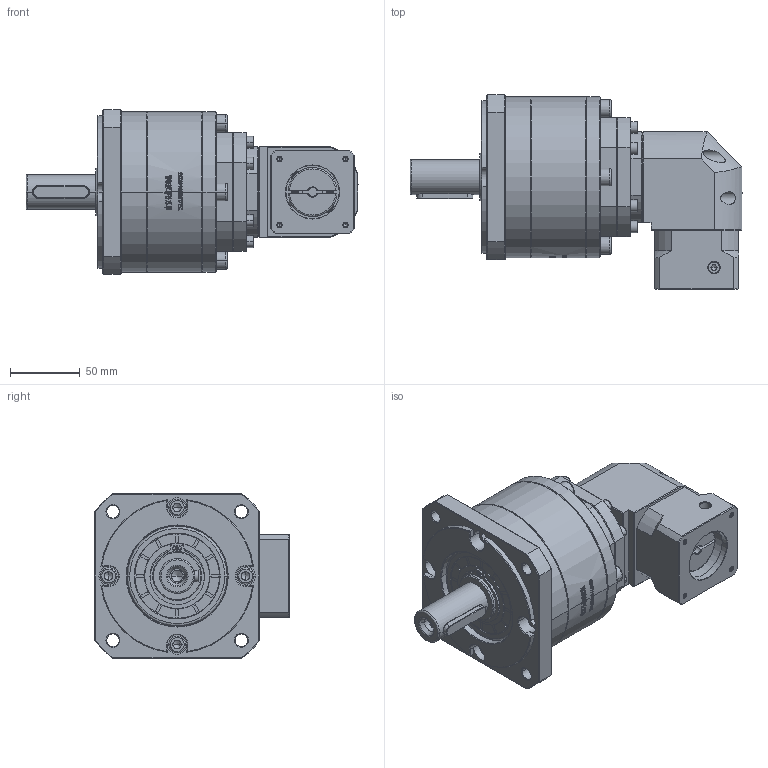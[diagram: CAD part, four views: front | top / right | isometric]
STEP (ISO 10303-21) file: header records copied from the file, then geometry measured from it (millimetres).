
FILE_DESCRIPTION (( 'STEP AP214' ), '1' );
FILE_NAME ('ZFR120A-D25-L3-6.35-38.1-47.14x47.14-M4.step', '2023-03-08T14:53:17', ( '' ), ( 'Microsoft' ), 'SwSTEP 2.0', 'SolidWorks 2016', '' );
FILE_SCHEMA (( 'AUTOMOTIVE_DESIGN' ));
Length unit declared in the file: millimetre
Products named in the file (1): ZFR120A-D25-L3-6.35-38.1-47.14x47.14-M4
Bounding box: 237.5 x 139.2 x 118 mm (x, y, z)
Volume: 1471947.9 mm3; surface area: 140231.2 mm2
Topology: 6 solids, 6 shells, 3039 faces, 8043 edges, 5161 vertices
Faces by surface type: plane 1596, bspline 625, cylinder 458, cone 347, torus 13
Entity records: 159925 total; most frequent: CARTESIAN_POINT 57116, ORIENTED_EDGE 15978, DIRECTION 11848, EDGE_CURVE 7989, VERTEX_POINT 5161, VECTOR 4994, LINE 4994, AXIS2_PLACEMENT_3D 3427
